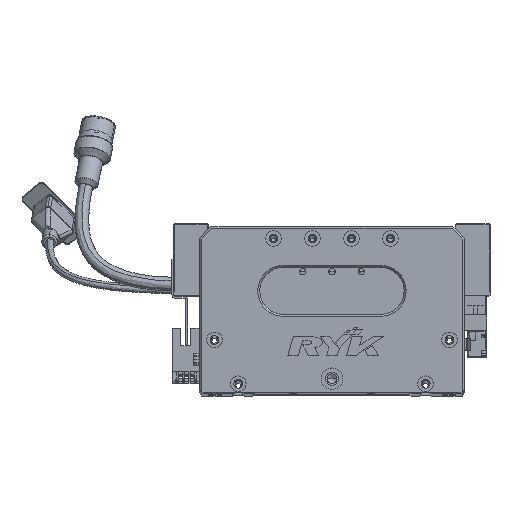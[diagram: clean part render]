
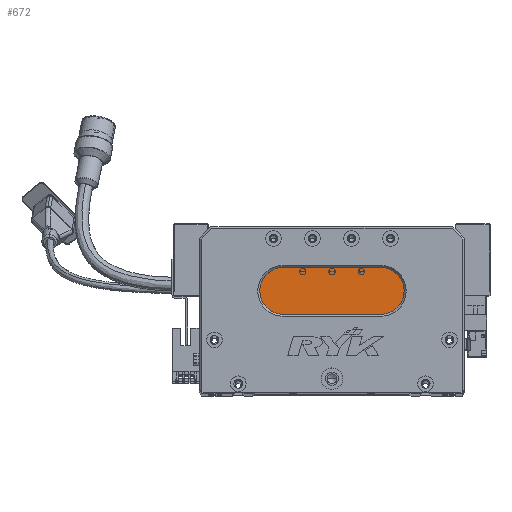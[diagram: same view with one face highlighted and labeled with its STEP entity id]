
A CAD part, top view. The second image highlights one B-rep face of the part: STEP entity #672.
In plain terms, the highlighted planar face has unit normal (0, 0, 1) as drawn and (0, 0, -1) by its records, which use the part's own axes.
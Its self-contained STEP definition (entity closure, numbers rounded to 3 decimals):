
#672 = ADVANCED_FACE ( 'NONE', ( #33948 ), #44058, .T. ) ;
#2282 = CIRCLE ( 'NONE', #70549, 12. ) ;
#5203 = ORIENTED_EDGE ( 'NONE', *, *, #48776, .T. ) ;
#6390 = DIRECTION ( 'NONE',  ( -1., 0., 0. ) ) ;
#7024 = VERTEX_POINT ( 'NONE', #24514 ) ;
#7770 = AXIS2_PLACEMENT_3D ( 'NONE', #32895, #45283, #76152 ) ;
#8150 = CARTESIAN_POINT ( 'NONE',  ( 93., 64., 13. ) ) ;
#8594 = VERTEX_POINT ( 'NONE', #24758 ) ;
#8838 = EDGE_CURVE ( 'NONE', #41741, #48664, #64529, .T. ) ;
#9966 = CARTESIAN_POINT ( 'NONE',  ( 43., 52., 13. ) ) ;
#10049 = ORIENTED_EDGE ( 'NONE', *, *, #8838, .T. ) ;
#11771 = CARTESIAN_POINT ( 'NONE',  ( 93., 64., 13. ) ) ;
#12507 = VERTEX_POINT ( 'NONE', #32613 ) ;
#15044 = EDGE_CURVE ( 'NONE', #12507, #41741, #60234, .T. ) ;
#24514 = CARTESIAN_POINT ( 'NONE',  ( 43., 40., 13. ) ) ;
#24574 = EDGE_LOOP ( 'NONE', ( #10049, #5203, #54768, #51738, #72072 ) ) ;
#24758 = CARTESIAN_POINT ( 'NONE',  ( 31., 52., 13. ) ) ;
#27958 = DIRECTION ( 'NONE',  ( -1., 0., 0. ) ) ;
#30823 = CARTESIAN_POINT ( 'NONE',  ( 93., 40., 13. ) ) ;
#32613 = CARTESIAN_POINT ( 'NONE',  ( 43., 64., 13. ) ) ;
#32895 = CARTESIAN_POINT ( 'NONE',  ( 43., 52., 13. ) ) ;
#33948 = FACE_OUTER_BOUND ( 'NONE', #24574, .T. ) ;
#36457 = AXIS2_PLACEMENT_3D ( 'NONE', #70387, #63097, #51361 ) ;
#39226 = DIRECTION ( 'NONE',  ( -1., 0., 0. ) ) ;
#41741 = VERTEX_POINT ( 'NONE', #8150 ) ;
#42224 = AXIS2_PLACEMENT_3D ( 'NONE', #67925, #57699, #39226 ) ;
#44058 = PLANE ( 'NONE',  #42224 ) ;
#45283 = DIRECTION ( 'NONE',  ( 0., 0., -1. ) ) ;
#48664 = VERTEX_POINT ( 'NONE', #59824 ) ;
#48776 = EDGE_CURVE ( 'NONE', #48664, #7024, #72791, .T. ) ;
#51361 = DIRECTION ( 'NONE',  ( -1., 0., 0. ) ) ;
#51738 = ORIENTED_EDGE ( 'NONE', *, *, #55968, .T. ) ;
#54697 = DIRECTION ( 'NONE',  ( 1., 0., 0. ) ) ;
#54768 = ORIENTED_EDGE ( 'NONE', *, *, #62226, .T. ) ;
#55968 = EDGE_CURVE ( 'NONE', #8594, #12507, #2282, .T. ) ;
#57699 = DIRECTION ( 'NONE',  ( 0., 0., -1. ) ) ;
#59824 = CARTESIAN_POINT ( 'NONE',  ( 93., 40., 13. ) ) ;
#60234 = LINE ( 'NONE', #11771, #77562 ) ;
#62206 = VECTOR ( 'NONE', #6390, 1000. ) ;
#62226 = EDGE_CURVE ( 'NONE', #7024, #8594, #68189, .T. ) ;
#63097 = DIRECTION ( 'NONE',  ( 0., 0., -1. ) ) ;
#64438 = DIRECTION ( 'NONE',  ( 0., 0., -1. ) ) ;
#64529 = CIRCLE ( 'NONE', #36457, 12. ) ;
#67925 = CARTESIAN_POINT ( 'NONE',  ( 93., 52., 13. ) ) ;
#68189 = CIRCLE ( 'NONE', #7770, 12. ) ;
#70387 = CARTESIAN_POINT ( 'NONE',  ( 93., 52., 13. ) ) ;
#70549 = AXIS2_PLACEMENT_3D ( 'NONE', #9966, #64438, #27958 ) ;
#72072 = ORIENTED_EDGE ( 'NONE', *, *, #15044, .T. ) ;
#72791 = LINE ( 'NONE', #30823, #62206 ) ;
#76152 = DIRECTION ( 'NONE',  ( -1., 0., 0. ) ) ;
#77562 = VECTOR ( 'NONE', #54697, 1000. ) ;
